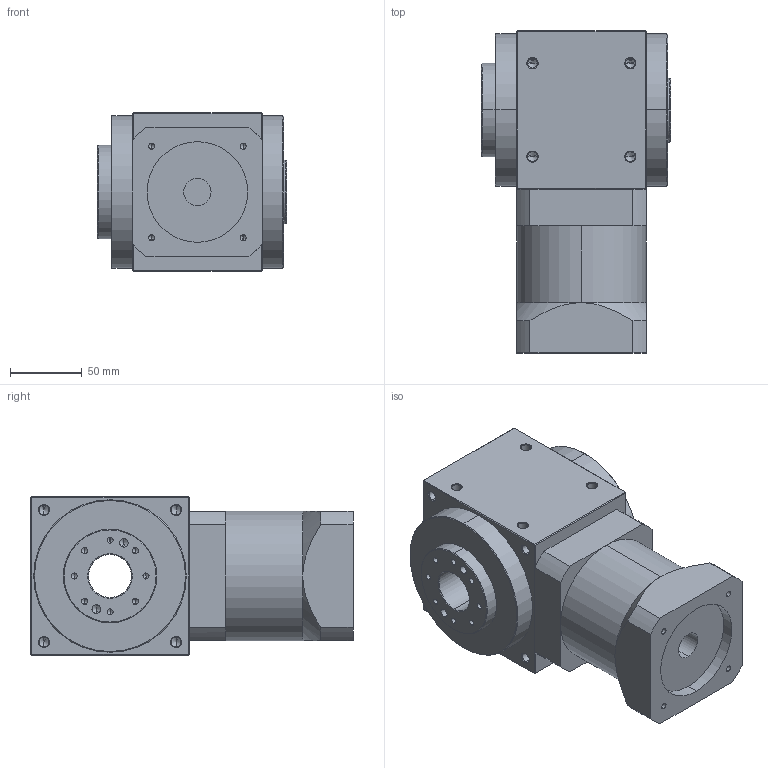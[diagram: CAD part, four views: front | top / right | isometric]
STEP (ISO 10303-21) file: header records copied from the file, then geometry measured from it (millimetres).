
FILE_DESCRIPTION (( 'STEP AP214' ), '1' );
FILE_NAME ('RXW110AS-L1-RF-19-70-90-m5.STEP', '2019-08-03T03:49:41', ( 'User' ), ( 'Far123' ), 'SwSTEP 2.0', 'SolidWorks 2015', '' );
FILE_SCHEMA (( 'AUTOMOTIVE_DESIGN' ));
Length unit declared in the file: millimetre
Products named in the file (1): RXW110AS-L1-RF-19-70-90-m5
Bounding box: 131.5 x 224 x 110 mm (x, y, z)
Volume: 2049245.7 mm3; surface area: 138642 mm2
Topology: 1 solids, 1 shells, 264 faces, 632 edges, 334 vertices
Faces by surface type: cone 124, cylinder 92, plane 48
Entity records: 7966 total; most frequent: CARTESIAN_POINT 1347, DIRECTION 1338, ORIENTED_EDGE 1128, EDGE_CURVE 564, AXIS2_PLACEMENT_3D 525, VERTEX_POINT 334, EDGE_LOOP 306, LINE 288
